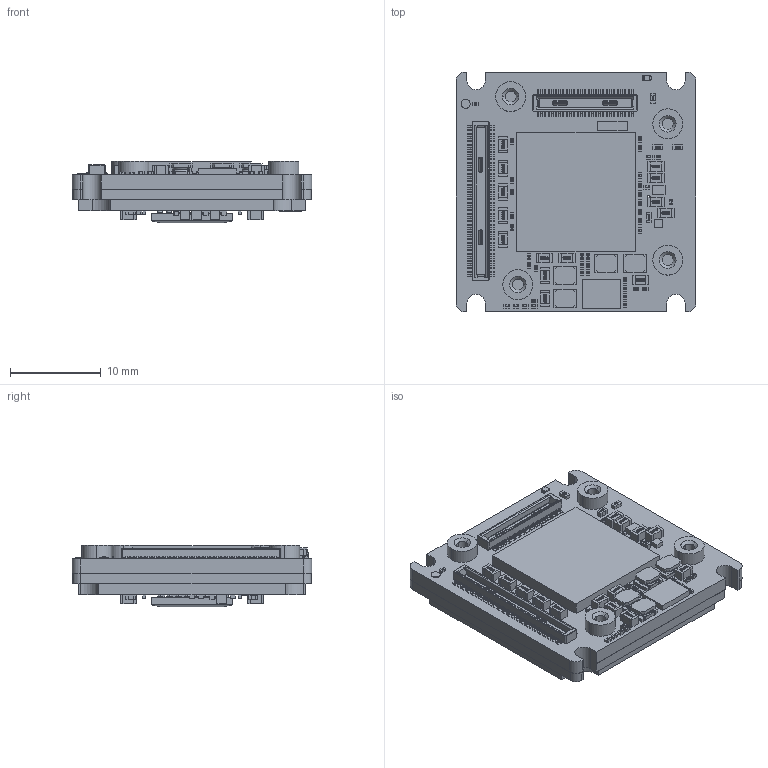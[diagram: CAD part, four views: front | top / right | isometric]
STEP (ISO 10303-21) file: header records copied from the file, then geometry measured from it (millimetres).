
FILE_DESCRIPTION (( 'STEP AP214' ), '1' );
FILE_NAME ('Alvium-Extended-Bare-Board-AR0135CS.STEP', '2022-11-28T09:59:57', ( '' ), ( '' ), 'SwSTEP 2.0', 'SolidWorks 2021', '' );
FILE_SCHEMA (( 'AUTOMOTIVE_DESIGN' ));
Length unit declared in the file: millimetre
Products named in the file (1): Alvium-Extended-Bare-Board-AR0135CS
Bounding box: 26.4 x 26.4 x 6.77 mm (x, y, z)
Volume: 3080.6 mm3; surface area: 3631.1 mm2
Topology: 134 solids, 134 shells, 8829 faces, 22585 edges, 14676 vertices
Faces by surface type: plane 4404, bspline 3347, cylinder 880, torus 166, cone 24, sphere 8
Entity records: 552243 total; most frequent: CARTESIAN_POINT 261838, ORIENTED_EDGE 45138, DIRECTION 28813, EDGE_CURVE 22569, VERTEX_POINT 14676, LINE 13711, VECTOR 13711, EDGE_LOOP 9505
